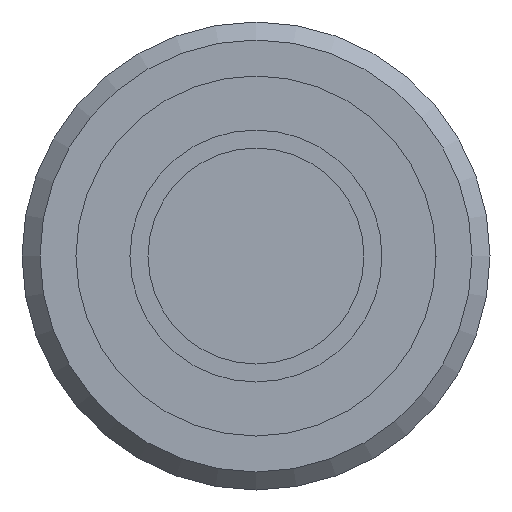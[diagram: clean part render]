
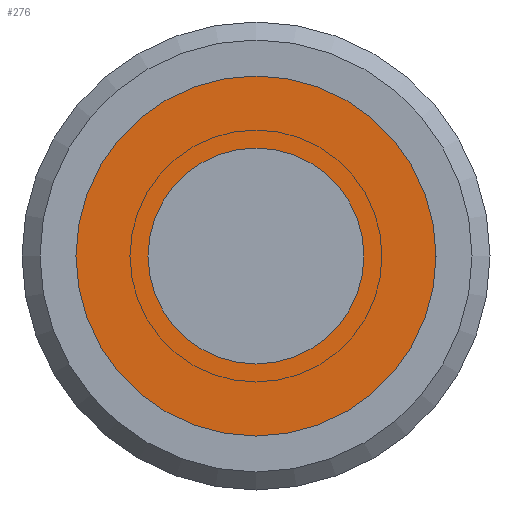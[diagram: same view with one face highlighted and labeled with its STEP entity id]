
A CAD part, left-side view. The second image highlights one B-rep face of the part: STEP entity #276.
In plain terms, the highlighted planar face has unit normal (-1, 0, 0).
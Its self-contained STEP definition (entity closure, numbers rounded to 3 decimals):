
#276 = ADVANCED_FACE( '', ( #387, #388 ), #389, .F. );
#387 = FACE_OUTER_BOUND( '', #517, .T. );
#388 = FACE_BOUND( '', #518, .T. );
#389 = PLANE( '', #519 );
#517 = EDGE_LOOP( '', ( #712 ) );
#518 = EDGE_LOOP( '', ( #713 ) );
#519 = AXIS2_PLACEMENT_3D( '', #714, #715, #716 );
#712 = ORIENTED_EDGE( '', *, *, #799, .F. );
#713 = ORIENTED_EDGE( '', *, *, #798, .T. );
#714 = CARTESIAN_POINT( '', ( -2., 6., 0. ) );
#715 = DIRECTION( '', ( 1., 0., 0. ) );
#716 = DIRECTION( '', ( 0., 0., -1. ) );
#798 = EDGE_CURVE( '', #872, #872, #873, .T. );
#799 = EDGE_CURVE( '', #874, #874, #875, .T. );
#872 = VERTEX_POINT( '', #956 );
#873 = CIRCLE( '', #957, 6. );
#874 = VERTEX_POINT( '', #958 );
#875 = CIRCLE( '', #959, 10. );
#956 = CARTESIAN_POINT( '', ( -2., 0., -6. ) );
#957 = AXIS2_PLACEMENT_3D( '', #1072, #1073, #1074 );
#958 = CARTESIAN_POINT( '', ( -2., 0., -10. ) );
#959 = AXIS2_PLACEMENT_3D( '', #1075, #1076, #1077 );
#1072 = CARTESIAN_POINT( '', ( -2., 0., 0. ) );
#1073 = DIRECTION( '', ( 1., 0., 0. ) );
#1074 = DIRECTION( '', ( 0., 0., -1. ) );
#1075 = CARTESIAN_POINT( '', ( -2., 0., 0. ) );
#1076 = DIRECTION( '', ( 1., 0., 0. ) );
#1077 = DIRECTION( '', ( 0., 0., -1. ) );
